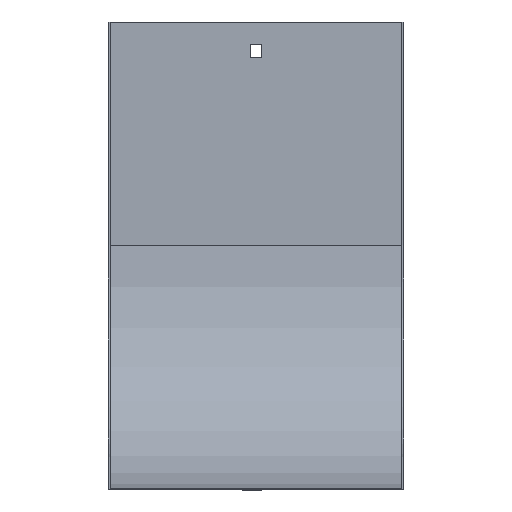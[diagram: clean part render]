
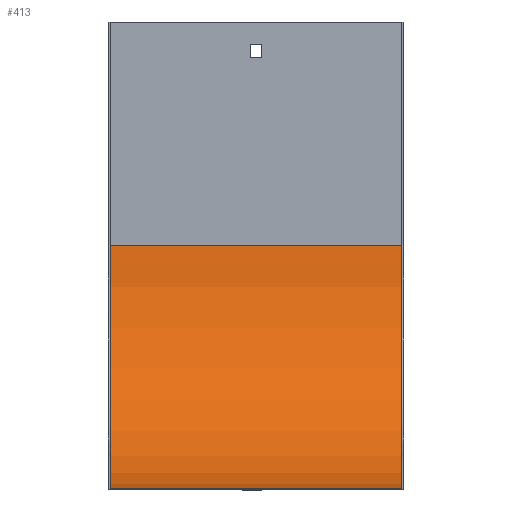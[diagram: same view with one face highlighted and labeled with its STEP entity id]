
A CAD part, front view. The second image highlights one B-rep face of the part: STEP entity #413.
In plain terms, the highlighted cylindrical face has radius 125 mm (diameter 250 mm), a partial arc.
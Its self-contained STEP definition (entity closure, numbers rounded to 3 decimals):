
#66 = CARTESIAN_POINT ( 'NONE',  ( 75., -1., -115. ) ) ;
#71 = VERTEX_POINT ( 'NONE', #208 ) ;
#91 = LINE ( 'NONE', #623, #280 ) ;
#112 = DIRECTION ( 'NONE',  ( -1., 0., 0. ) ) ;
#117 = VERTEX_POINT ( 'NONE', #66 ) ;
#164 = VECTOR ( 'NONE', #112, 1000. ) ;
#168 = EDGE_CURVE ( 'NONE', #117, #385, #91, .T. ) ;
#199 = DIRECTION ( 'NONE',  ( -1., 0., 0. ) ) ;
#208 = CARTESIAN_POINT ( 'NONE',  ( 75., -126., -240. ) ) ;
#257 = DIRECTION ( 'NONE',  ( 0., 0., 1. ) ) ;
#264 = FACE_OUTER_BOUND ( 'NONE', #341, .T. ) ;
#276 = EDGE_CURVE ( 'NONE', #71, #117, #550, .T. ) ;
#280 = VECTOR ( 'NONE', #819, 1000. ) ;
#299 = EDGE_CURVE ( 'NONE', #704, #385, #772, .T. ) ;
#318 = CARTESIAN_POINT ( 'NONE',  ( -75., -126., -240. ) ) ;
#334 = DIRECTION ( 'NONE',  ( 1., 0., 0. ) ) ;
#341 = EDGE_LOOP ( 'NONE', ( #487, #455, #406, #847 ) ) ;
#385 = VERTEX_POINT ( 'NONE', #853 ) ;
#394 = DIRECTION ( 'NONE',  ( 0., 0., 1. ) ) ;
#406 = ORIENTED_EDGE ( 'NONE', *, *, #276, .T. ) ;
#413 = ADVANCED_FACE ( 'NONE', ( #264 ), #726, .F. ) ;
#448 = AXIS2_PLACEMENT_3D ( 'NONE', #585, #199, #457 ) ;
#451 = CARTESIAN_POINT ( 'NONE',  ( -75., -126., -115. ) ) ;
#455 = ORIENTED_EDGE ( 'NONE', *, *, #633, .F. ) ;
#457 = DIRECTION ( 'NONE',  ( 0., 0., 1. ) ) ;
#470 = CARTESIAN_POINT ( 'NONE',  ( 75., -126., -115. ) ) ;
#487 = ORIENTED_EDGE ( 'NONE', *, *, #299, .F. ) ;
#550 = CIRCLE ( 'NONE', #662, 125. ) ;
#585 = CARTESIAN_POINT ( 'NONE',  ( 76., -126., -115. ) ) ;
#623 = CARTESIAN_POINT ( 'NONE',  ( 76., -1., -115. ) ) ;
#628 = LINE ( 'NONE', #701, #164 ) ;
#633 = EDGE_CURVE ( 'NONE', #71, #704, #628, .T. ) ;
#662 = AXIS2_PLACEMENT_3D ( 'NONE', #470, #334, #394 ) ;
#701 = CARTESIAN_POINT ( 'NONE',  ( 76., -126., -240. ) ) ;
#704 = VERTEX_POINT ( 'NONE', #318 ) ;
#726 = CYLINDRICAL_SURFACE ( 'NONE', #448, 125. ) ;
#756 = AXIS2_PLACEMENT_3D ( 'NONE', #451, #785, #257 ) ;
#772 = CIRCLE ( 'NONE', #756, 125. ) ;
#785 = DIRECTION ( 'NONE',  ( 1., 0., 0. ) ) ;
#819 = DIRECTION ( 'NONE',  ( -1., 0., 0. ) ) ;
#847 = ORIENTED_EDGE ( 'NONE', *, *, #168, .T. ) ;
#853 = CARTESIAN_POINT ( 'NONE',  ( -75., -1., -115. ) ) ;
